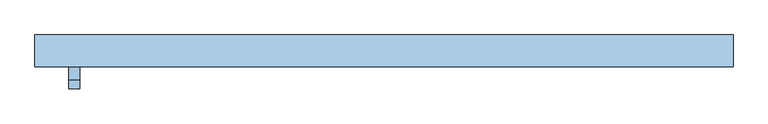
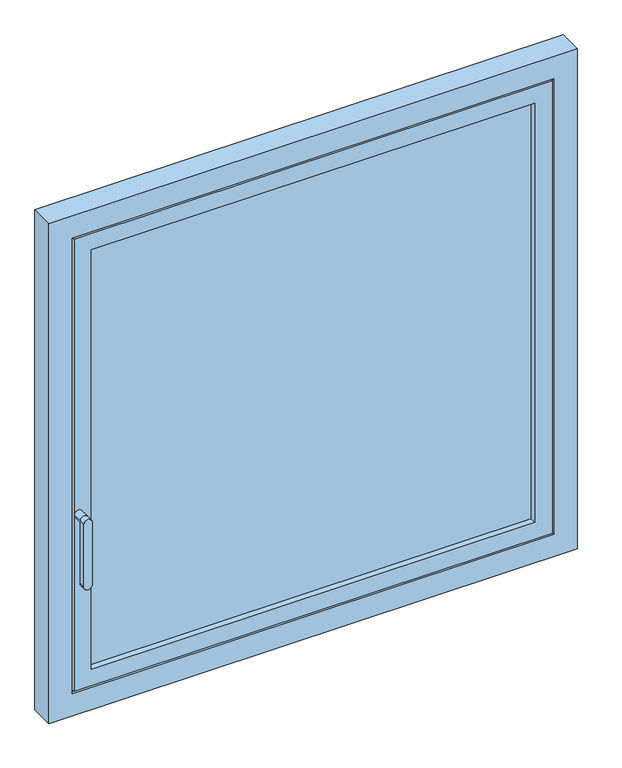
"""IFC4 building model written with IfcOpenShell, lengths in millimetres: window geometry, 900.04.031 : 900.04.031."""

from ifc_helpers import new_model, si_unit, frame, origin, place, context, project, spatial, polyline, circle_curve, outline, extrude, faceted_brep, source, transform, mapped, element, save
from ifc_brep_helpers import plane_surface, cylinder_surface, advanced_brep


def window_99a33fc7(model_context):
    return source(origin(), model_context, "Body", "SolidModel", [
        advanced_brep(
        [(-722.700662, -33.0044208, 1450.0), (-697.700662, -33.0044208, 1450.0), (-697.700662, -63.0044208, 1450.0), (-722.700662, -63.0044208, 1450.0), (-722.700662, -83.0044208, 1450.0), (-722.700662, -83.0044208, 1250.0), (-697.700662, -83.0044208, 1250.0), (-697.700662, -83.0044208, 1450.0), (-697.700662, -63.0044208, 1250.0), (-722.700662, -63.0044208, 1250.0)],
        [
            (0, 1, circle_curve(frame((-710.200662, -33.0044208, 1450.0), z_axis=(0.0, 1.0, 0.0), x_axis=(1.0, 0.0, 0.0)), 12.5)),
            (1, 0, circle_curve(frame((-710.200662, -33.0044208, 1450.0), z_axis=(0.0, 1.0, 0.0), x_axis=(1.0, 0.0, 0.0)), 12.5)),
            (1, 2),
            (2, 3, circle_curve(frame((-710.200662, -63.0044208, 1450.0), z_axis=(0.0, 1.0, 0.0), x_axis=(1.0, 0.0, 0.0)), 12.5)),
            (3, 0),
            (3, 2, circle_curve(frame((-710.200662, -63.0044208, 1450.0), z_axis=(0.0, 1.0, 0.0), x_axis=(1.0, 0.0, 0.0)), 12.5)),
            (4, 5),
            (5, 6, circle_curve(frame((-710.200662, -83.0044208, 1250.0), z_axis=(0.0, -1.0, 0.0), x_axis=(1.0, 0.0, 0.0)), 12.5)),
            (6, 7),
            (7, 4, circle_curve(frame((-710.200662, -83.0044208, 1450.0), z_axis=(0.0, -1.0, 0.0), x_axis=(1.0, 0.0, 0.0)), 12.5)),
            (2, 8),
            (8, 9, circle_curve(frame((-710.200662, -63.0044208, 1250.0), z_axis=(0.0, 1.0, 0.0), x_axis=(1.0, 0.0, 0.0)), 12.5)),
            (9, 3),
            (4, 3),
            (9, 5),
            (8, 6),
            (2, 7),
        ],
        [
            plane_surface(frame((-697.700662, -33.0044208, 1450.0), z_axis=(0.0, 1.0, 0.0), x_axis=(0.0, 0.0, -1.0))),
            cylinder_surface(frame((-710.200662, -33.0044208, 1450.0), z_axis=(0.0, -1.0, 0.0), x_axis=(1.0, 0.0, 0.0)), 12.5),
            plane_surface(frame((-722.700662, -83.0044208, 1450.0), z_axis=(0.0, -1.0, 0.0), x_axis=(0.0, 0.0, -1.0))),
            plane_surface(frame((-722.700662, -63.0044208, 1450.0), z_axis=(0.0, 1.0, 0.0), x_axis=(0.0, 0.0, 1.0))),
            plane_surface(frame((-722.700662, -83.0044208, 1450.0), z_axis=(-1.0, 0.0, 0.0), x_axis=(0.0, 1.0, 0.0))),
            cylinder_surface(frame((-710.200662, -63.0044208, 1250.0), z_axis=(0.0, -1.0, 0.0), x_axis=(1.0, 0.0, 0.0)), 12.5),
            plane_surface(frame((-697.700662, -83.0044208, 1250.0), z_axis=(1.0, 0.0, 0.0), x_axis=(0.0, 1.0, 0.0))),
            cylinder_surface(frame((-710.200662, -63.0044208, 1450.0), z_axis=(0.0, -1.0, 0.0), x_axis=(1.0, 0.0, 0.0)), 12.5),
        ],
        [
            (0, [[1, 2]]),
            (1, [[-2, 3, 4, 5]]),
            (1, [[-1, -5, 6, -3]]),
            (2, [[7, 8, 9, 10]]),
            (3, [[11, 12, 13, -4]]),
            (4, [[-7, 14, -13, 15]]),
            (5, [[-8, -15, -12, 16]]),
            (6, [[-9, -16, -11, 17]]),
            (7, [[-10, -17, -6, -14]]),
        ],
    ),
        extrude(outline(polyline([(686.1914129, -13.0293291), (-686.1914129, -13.0293291), (-686.1914129, 32.9747158), (686.1914129, 32.9747158), (686.1914129, -13.0293291)])), frame((0.0, 0.0, 923.8085871), z_axis=(0.0, 0.0, 1.0), x_axis=(1.0, 0.0, 0.0)), (0.0, 0.0, 1.0), 1372.3828259),
        faceted_brep([(-756.700662, 31.4967499, 2366.700662), (-756.700662, 40.0, 2366.700662), (-756.700662, 40.0, 853.299338), (-756.700662, 31.4967499, 853.299338), (756.700662, 40.0, 2366.700662), (756.700662, 40.0, 853.299338), (-671.2000977, 40.0, 938.7999023), (671.2000977, 40.0, 938.7999023), (671.2000977, 40.0, 2281.2000977), (-671.2000977, 40.0, 2281.2000977), (756.700662, 31.4967499, 853.299338), (756.700662, 31.4967499, 2366.700662), (-739.1003197, 31.4967499, 2349.1003197), (739.1003197, 31.4967499, 2349.1003197), (739.1003197, 31.4967499, 870.8996803), (-739.1003197, 31.4967499, 870.8996803), (-739.0991794, -25.005211, 870.9008206), (-739.0991794, -25.005211, 2349.0991794), (739.0991794, -25.005211, 870.9008206), (739.0991794, -25.005211, 2349.0991794), (-723.7884007, -25.005211, 2333.7884007), (723.7884007, -25.005211, 2333.7884007), (723.7884007, -25.005211, 886.2115993), (-723.7884007, -25.005211, 886.2115993), (-723.7884007, -33.0044208, 2333.7884007), (-723.7884007, -33.0044208, 886.2115993), (723.7884007, -33.0044208, 886.2115993), (723.7884007, -33.0044208, 2333.7884007), (-671.194848, -33.0044208, 2281.194848), (671.194848, -33.0044208, 2281.194848), (671.194848, -33.0044208, 938.805152), (-671.194848, -33.0044208, 938.805152), (-671.194848, -13.0293291, 2281.194848), (-671.194848, -13.0293291, 938.805152), (671.194848, -13.0293291, 938.805152), (-686.1914129, -13.0293291, 2296.1914129), (686.1914129, -13.0293291, 2296.1914129), (686.1914129, -13.0293291, 923.8085871), (-686.1914129, -13.0293291, 923.8085871), (671.194848, -13.0293291, 2281.194848), (-686.1914129, 32.9747158, 2296.1914129), (-686.1914129, 32.9747158, 923.8085871), (686.1914129, 32.9747158, 923.8085871), (686.1914129, 32.9747158, 2296.1914129), (-671.2000977, 32.9747158, 2281.2000977), (671.2000977, 32.9747158, 2281.2000977), (671.2000977, 32.9747158, 938.7999023), (-671.2000977, 32.9747158, 938.7999023)], [[[0, 1, 2, 3]], [[1, 4, 5, 2], [6, 7, 8, 9]], [[3, 2, 5, 10]], [[3, 10, 11, 0], [12, 13, 14, 15]], [[12, 15, 16, 17]], [[16, 15, 14, 18]], [[16, 18, 19, 17], [20, 21, 22, 23]], [[24, 20, 23, 25]], [[25, 23, 22, 26]], [[25, 26, 27, 24], [28, 29, 30, 31]], [[32, 28, 31, 33]], [[33, 31, 30, 34]], [[35, 36, 37, 38], [33, 34, 39, 32]], [[40, 35, 38, 41]], [[41, 38, 37, 42]], [[41, 42, 43, 40], [44, 45, 46, 47]], [[9, 44, 47, 6]], [[6, 47, 46, 7]], [[10, 5, 4, 11]], [[18, 14, 13, 19]], [[26, 22, 21, 27]], [[34, 30, 29, 39]], [[42, 37, 36, 43]], [[7, 46, 45, 8]], [[11, 4, 1, 0]], [[19, 13, 12, 17]], [[27, 21, 20, 24]], [[39, 29, 28, 32]], [[43, 36, 35, 40]], [[8, 45, 44, 9]]]),
        faceted_brep([(800.0, 40.0, 2410.0), (800.0, -32.9943654, 2410.0), (800.0, -32.9943654, 810.0), (800.0, 40.0, 810.0), (-800.0, -32.9943654, 2410.0), (-800.0, -32.9943654, 810.0), (728.7887379, -32.9943654, 881.2112621), (-728.7887379, -32.9943654, 881.2112621), (-728.7887379, -32.9943654, 2338.7887379), (728.7887379, -32.9943654, 2338.7887379), (-800.0, 40.0, 810.0), (-800.0, 40.0, 2410.0), (761.7063618, 40.0, 2371.7063618), (-761.7063618, 40.0, 2371.7063618), (-761.7063618, 40.0, 848.2936382), (761.7063618, 40.0, 848.2936382), (728.7887379, -24.9958633, 2338.7887379), (728.7887379, -24.9958633, 881.2112621), (750.6068467, -24.9958633, 859.3931533), (-750.6068467, -24.9958633, 859.3931533), (-750.6068467, -24.9958633, 2360.6068467), (750.6068467, -24.9958633, 2360.6068467), (-728.7887379, -24.9958633, 2338.7887379), (-728.7887379, -24.9958633, 881.2112621), (750.6068467, 31.5051896, 2360.6068467), (750.6068467, 31.5051896, 859.3931533), (761.7063618, 31.5051896, 848.2936382), (-761.7063618, 31.5051896, 848.2936382), (-761.7063618, 31.5051896, 2371.7063618), (761.7063618, 31.5051896, 2371.7063618), (-750.6068467, 31.5051896, 2360.6068467), (-750.6068467, 31.5051896, 859.3931533)], [[[0, 1, 2, 3]], [[1, 4, 5, 2], [6, 7, 8, 9]], [[3, 2, 5, 10]], [[3, 10, 11, 0], [12, 13, 14, 15]], [[9, 16, 17, 6]], [[18, 19, 20, 21], [16, 22, 23, 17]], [[6, 17, 23, 7]], [[21, 24, 25, 18]], [[26, 27, 28, 29], [24, 30, 31, 25]], [[18, 25, 31, 19]], [[29, 12, 15, 26]], [[26, 15, 14, 27]], [[10, 5, 4, 11]], [[7, 23, 22, 8]], [[19, 31, 30, 20]], [[27, 14, 13, 28]], [[11, 4, 1, 0]], [[8, 22, 16, 9]], [[20, 30, 24, 21]], [[28, 13, 12, 29]]]),
    ])


if __name__ == "__main__":
    model = new_model("IFC4")
    model_context = context("Model", 3, world=origin())
    ifc_project = project(units=[si_unit("LENGTHUNIT", "METRE", prefix="MILLI")], contexts=[model_context])
    site = spatial("IfcSite", under=ifc_project)
    building = spatial("IfcBuilding", under=site)
    placement = place(None, origin())
    window_shape = window_99a33fc7(model_context)
    element("IfcWindow", 1, ObjectType="900.04.031 : 900.04.031", at=placement, inside=building, context=model_context, shape_type="MappedRepresentation", body=[
        mapped(window_shape, transform((0.0, 0.0, 0.0), x_axis=(1.0, 0.0, 0.0), y_axis=(0.0, 1.0, 0.0), z_axis=(0.0, 0.0, 1.0))),
    ])
    save(model, "model.ifc")
